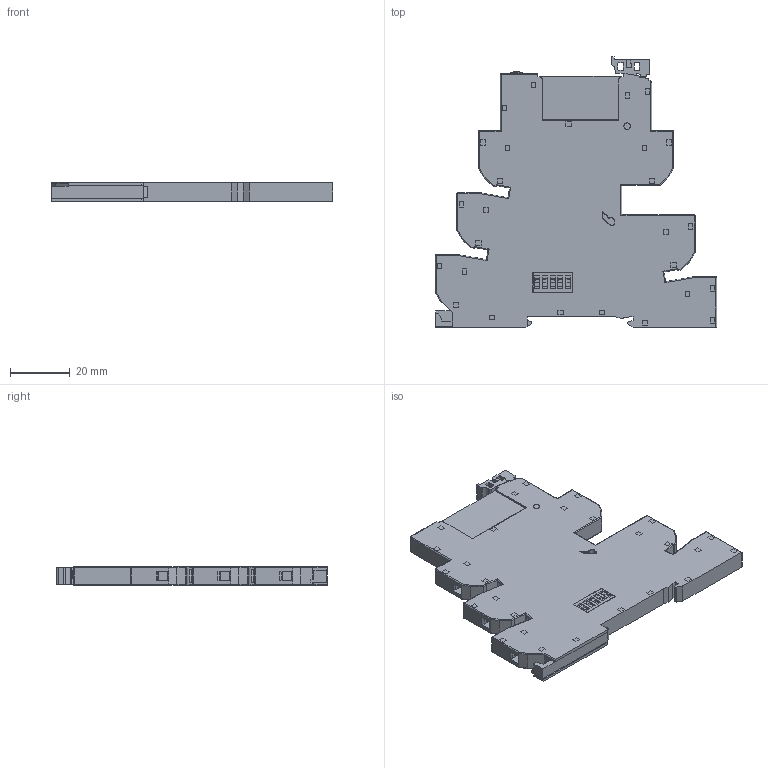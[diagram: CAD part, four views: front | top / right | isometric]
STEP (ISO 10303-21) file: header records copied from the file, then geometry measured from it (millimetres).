
FILE_DESCRIPTION(('STEP AP214'),'2;1');
FILE_NAME('3981=3451+9368.stp','2010-10-02T09:26:02',(''),(''),'2007.1.106','THINKDESIGN','');
FILE_SCHEMA(('AUTOMOTIVE_DESIGN'));
Products named in the file (1): None
Bounding box: 94.25 x 90.7 x 6.2 mm (x, y, z)
Surface area: 18354.2 mm2 (no closed solid volume)
Topology: 0 solids, 0 shells, 1165 faces, 6804 edges, 6789 vertices
Faces by surface type: plane 961, cylinder 179, bspline 25
Full cylindrical faces by diameter (mm): 1.5 x6, 2.2 x2, 2.798 x6, 3.9 x6, 4.299 x6
Entity records: 66790 total; most frequent: CARTESIAN_POINT 16746, DIRECTION 8907, COMPOSITE_CURVE_SEGMENT 6791, TRIMMED_CURVE 6313, VECTOR 5999, LINE 5999, AXIS2_PLACEMENT_3D 1454, OUTER_BOUNDARY_CURVE 1165
